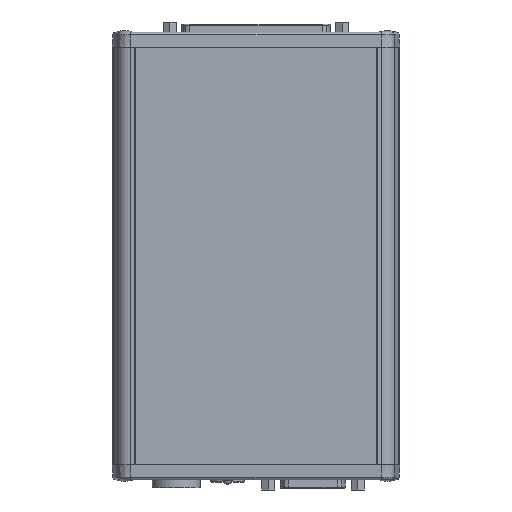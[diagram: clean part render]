
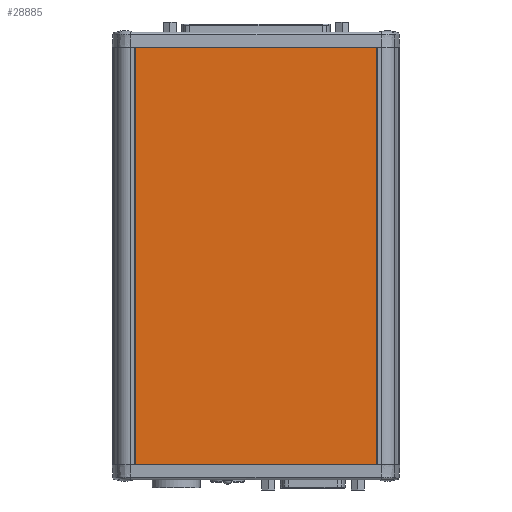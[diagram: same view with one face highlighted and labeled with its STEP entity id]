
A CAD part, front view. The second image highlights one B-rep face of the part: STEP entity #28885.
In plain terms, the highlighted planar face has unit normal (0, -1, 0).
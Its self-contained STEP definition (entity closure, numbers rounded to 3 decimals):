
#2568 = DIRECTION ( 'NONE',  ( 1., 0., 0. ) ) ;
#4706 = CARTESIAN_POINT ( 'NONE',  ( -1.752, -0.591, 0. ) ) ;
#5335 = FACE_OUTER_BOUND ( 'NONE', #59735, .T. ) ;
#5766 = CARTESIAN_POINT ( 'NONE',  ( -1.752, -0.591, 10.426 ) ) ;
#6630 = CARTESIAN_POINT ( 'NONE',  ( 1.752, -0.591, 0. ) ) ;
#8401 = VERTEX_POINT ( 'NONE', #19952 ) ;
#10340 = PLANE ( 'NONE',  #68783 ) ;
#10600 = VERTEX_POINT ( 'NONE', #6630 ) ;
#13532 = EDGE_CURVE ( 'NONE', #8401, #52459, #25063, .T. ) ;
#15469 = EDGE_CURVE ( 'NONE', #24762, #10600, #44504, .T. ) ;
#19952 = CARTESIAN_POINT ( 'NONE',  ( -1.752, -0.591, 6.067 ) ) ;
#20268 = ORIENTED_EDGE ( 'NONE', *, *, #15469, .T. ) ;
#24762 = VERTEX_POINT ( 'NONE', #4706 ) ;
#25063 = LINE ( 'NONE', #72333, #54025 ) ;
#28885 = ADVANCED_FACE ( 'NONE', ( #5335 ), #10340, .F. ) ;
#30921 = VECTOR ( 'NONE', #65077, 39.37 ) ;
#33817 = DIRECTION ( 'NONE',  ( 0., 1., 0. ) ) ;
#44504 = LINE ( 'NONE', #62140, #45661 ) ;
#45661 = VECTOR ( 'NONE', #2568, 39.37 ) ;
#51490 = DIRECTION ( 'NONE',  ( 0., 0., 1. ) ) ;
#52459 = VERTEX_POINT ( 'NONE', #58087 ) ;
#54025 = VECTOR ( 'NONE', #71955, 39.37 ) ;
#54188 = ORIENTED_EDGE ( 'NONE', *, *, #65632, .F. ) ;
#58087 = CARTESIAN_POINT ( 'NONE',  ( 1.752, -0.591, 6.067 ) ) ;
#59735 = EDGE_LOOP ( 'NONE', ( #61275, #74127, #20268, #54188 ) ) ;
#61275 = ORIENTED_EDGE ( 'NONE', *, *, #13532, .F. ) ;
#62140 = CARTESIAN_POINT ( 'NONE',  ( -1.752, -0.591, 0. ) ) ;
#64138 = CARTESIAN_POINT ( 'NONE',  ( -1.752, -0.591, 10.426 ) ) ;
#64964 = DIRECTION ( 'NONE',  ( 0., 0., -1. ) ) ;
#65077 = DIRECTION ( 'NONE',  ( 0., 0., -1. ) ) ;
#65452 = CARTESIAN_POINT ( 'NONE',  ( 1.752, -0.591, 10.426 ) ) ;
#65632 = EDGE_CURVE ( 'NONE', #52459, #10600, #75858, .T. ) ;
#67599 = EDGE_CURVE ( 'NONE', #8401, #24762, #75383, .T. ) ;
#68783 = AXIS2_PLACEMENT_3D ( 'NONE', #64138, #33817, #51490 ) ;
#69617 = VECTOR ( 'NONE', #64964, 39.37 ) ;
#71955 = DIRECTION ( 'NONE',  ( 1., 0., 0. ) ) ;
#72333 = CARTESIAN_POINT ( 'NONE',  ( -1.752, -0.591, 6.067 ) ) ;
#74127 = ORIENTED_EDGE ( 'NONE', *, *, #67599, .T. ) ;
#75383 = LINE ( 'NONE', #5766, #69617 ) ;
#75858 = LINE ( 'NONE', #65452, #30921 ) ;
